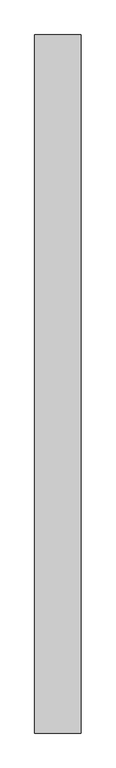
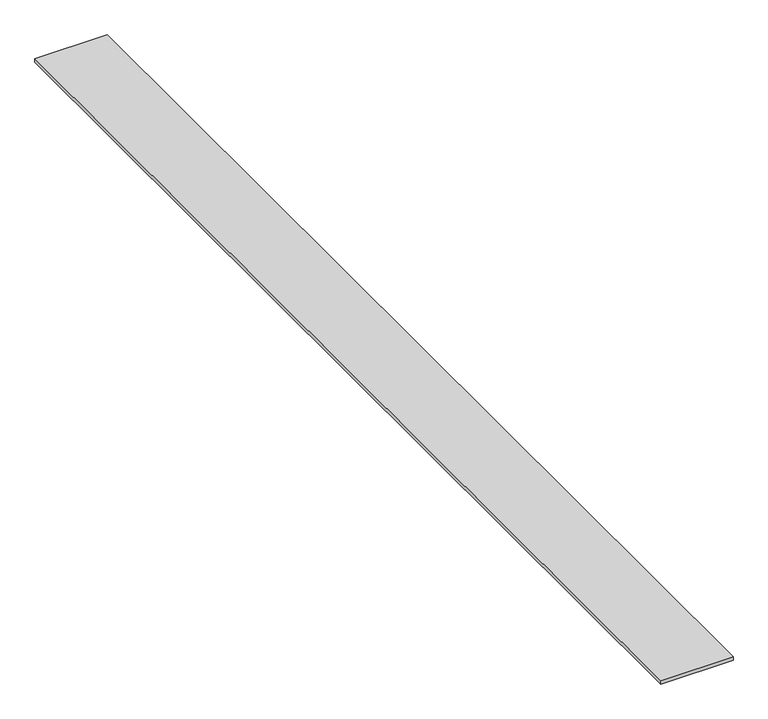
"""IFC4 building model written with IfcOpenShell, lengths in millimetres: fastener geometry, GASBETON Malte : Adesivo GASBETON."""

from ifc_helpers import new_model, si_unit, origin, origin_with_axes, place, context, project, spatial, polyline, outline, extrude, source, transform, mapped, element, save


def fastener_5f848f9a(model_context):
    return source(origin(), model_context, "Body", "SweptSolid", [
        extrude(outline(polyline([(200.0, 3000.0), (200.0, -3000.0), (-200.0, -3000.0), (-200.0, 3000.0), (200.0, 3000.0)])), origin_with_axes(), (0.0, 0.0, 1.0), 20.0),
    ])


if __name__ == "__main__":
    model = new_model("IFC4")
    model_context = context("Model", 3, world=origin())
    ifc_project = project(units=[si_unit("LENGTHUNIT", "METRE", prefix="MILLI")], contexts=[model_context])
    site = spatial("IfcSite", under=ifc_project)
    building = spatial("IfcBuilding", under=site)
    placement = place(None, origin())
    fastener_shape = fastener_5f848f9a(model_context)
    element("IfcFastener", 1, ObjectType="GASBETON Malte : Adesivo GASBETON", at=placement, inside=building, context=model_context, shape_type="MappedRepresentation", body=[
        mapped(fastener_shape, transform((0.0, 0.0, 0.0), x_axis=(1.0, 0.0, 0.0), y_axis=(0.0, 1.0, 0.0), z_axis=(0.0, 0.0, 1.0))),
    ])
    save(model, "model.ifc")
